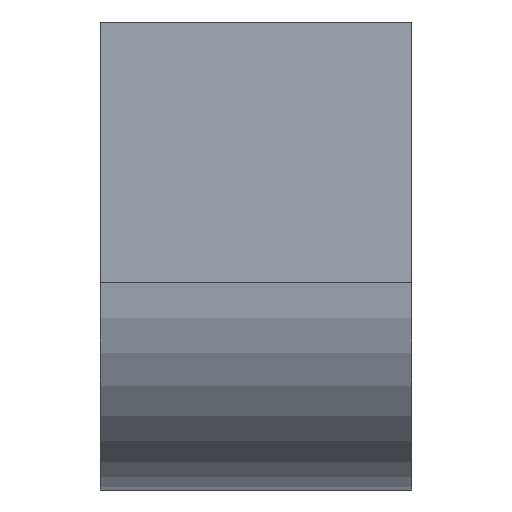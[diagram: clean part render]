
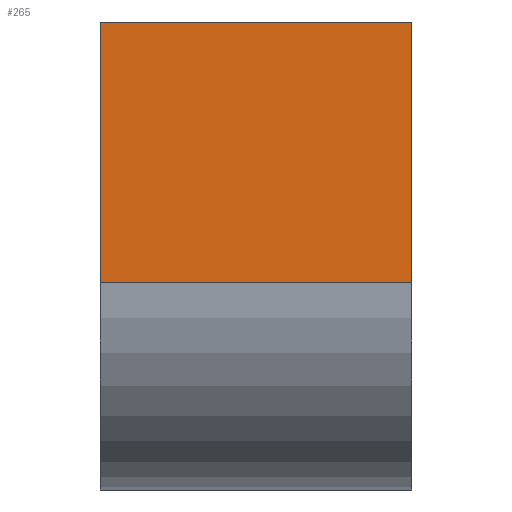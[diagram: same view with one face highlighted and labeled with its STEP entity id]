
A CAD part, left-side view. The second image highlights one B-rep face of the part: STEP entity #265.
In plain terms, the highlighted planar face has unit normal (-1, 0, 0).
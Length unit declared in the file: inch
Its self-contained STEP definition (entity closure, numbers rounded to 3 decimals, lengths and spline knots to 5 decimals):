
#21 = DIRECTION ( 'NONE',  ( 0., 0., -1. ) ) ;
#33 = CARTESIAN_POINT ( 'NONE',  ( -1.2425, 0.433, 0. ) ) ;
#40 = DIRECTION ( 'NONE',  ( 0., -1., 0. ) ) ;
#57 = CARTESIAN_POINT ( 'NONE',  ( -1.2425, 0.433, 0. ) ) ;
#71 = DIRECTION ( 'NONE',  ( 1., 0., 0. ) ) ;
#98 = VERTEX_POINT ( 'NONE', #57 ) ;
#102 = LINE ( 'NONE', #444, #174 ) ;
#106 = LINE ( 'NONE', #440, #415 ) ;
#115 = PLANE ( 'NONE',  #248 ) ;
#120 = VERTEX_POINT ( 'NONE', #503 ) ;
#174 = VECTOR ( 'NONE', #526, 39.37008 ) ;
#184 = EDGE_CURVE ( 'NONE', #98, #281, #268, .T. ) ;
#191 = EDGE_LOOP ( 'NONE', ( #318, #325, #607, #370 ) ) ;
#208 = DIRECTION ( 'NONE',  ( 0., 0., -1. ) ) ;
#224 = FACE_OUTER_BOUND ( 'NONE', #191, .T. ) ;
#248 = AXIS2_PLACEMENT_3D ( 'NONE', #495, #71, #208 ) ;
#265 = ADVANCED_FACE ( 'NONE', ( #224 ), #115, .F. ) ;
#268 = LINE ( 'NONE', #33, #310 ) ;
#281 = VERTEX_POINT ( 'NONE', #590 ) ;
#286 = CARTESIAN_POINT ( 'NONE',  ( -1.2425, -0.1, 0.4461 ) ) ;
#310 = VECTOR ( 'NONE', #311, 39.37008 ) ;
#311 = DIRECTION ( 'NONE',  ( 0., -1., 0. ) ) ;
#318 = ORIENTED_EDGE ( 'NONE', *, *, #184, .T. ) ;
#325 = ORIENTED_EDGE ( 'NONE', *, *, #535, .F. ) ;
#335 = CARTESIAN_POINT ( 'NONE',  ( -1.2425, 0.433, 0.4461 ) ) ;
#370 = ORIENTED_EDGE ( 'NONE', *, *, #533, .F. ) ;
#378 = EDGE_CURVE ( 'NONE', #120, #549, #421, .T. ) ;
#400 = VECTOR ( 'NONE', #40, 39.37008 ) ;
#415 = VECTOR ( 'NONE', #21, 39.37008 ) ;
#421 = LINE ( 'NONE', #335, #400 ) ;
#440 = CARTESIAN_POINT ( 'NONE',  ( -1.2425, -0.1, 0.4461 ) ) ;
#444 = CARTESIAN_POINT ( 'NONE',  ( -1.2425, 0.433, 0. ) ) ;
#495 = CARTESIAN_POINT ( 'NONE',  ( -1.2425, 0.433, 0. ) ) ;
#503 = CARTESIAN_POINT ( 'NONE',  ( -1.2425, 0.433, 0.4461 ) ) ;
#526 = DIRECTION ( 'NONE',  ( 0., 0., 1. ) ) ;
#533 = EDGE_CURVE ( 'NONE', #98, #120, #102, .T. ) ;
#535 = EDGE_CURVE ( 'NONE', #549, #281, #106, .T. ) ;
#549 = VERTEX_POINT ( 'NONE', #286 ) ;
#590 = CARTESIAN_POINT ( 'NONE',  ( -1.2425, -0.1, 0. ) ) ;
#607 = ORIENTED_EDGE ( 'NONE', *, *, #378, .F. ) ;
